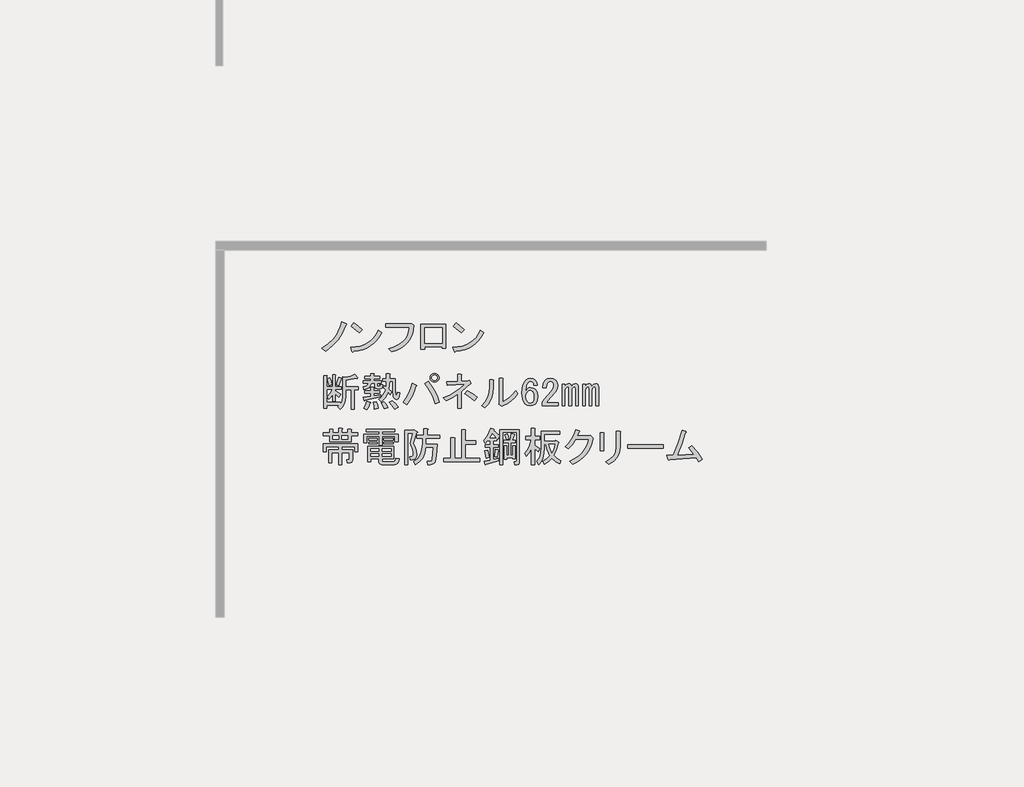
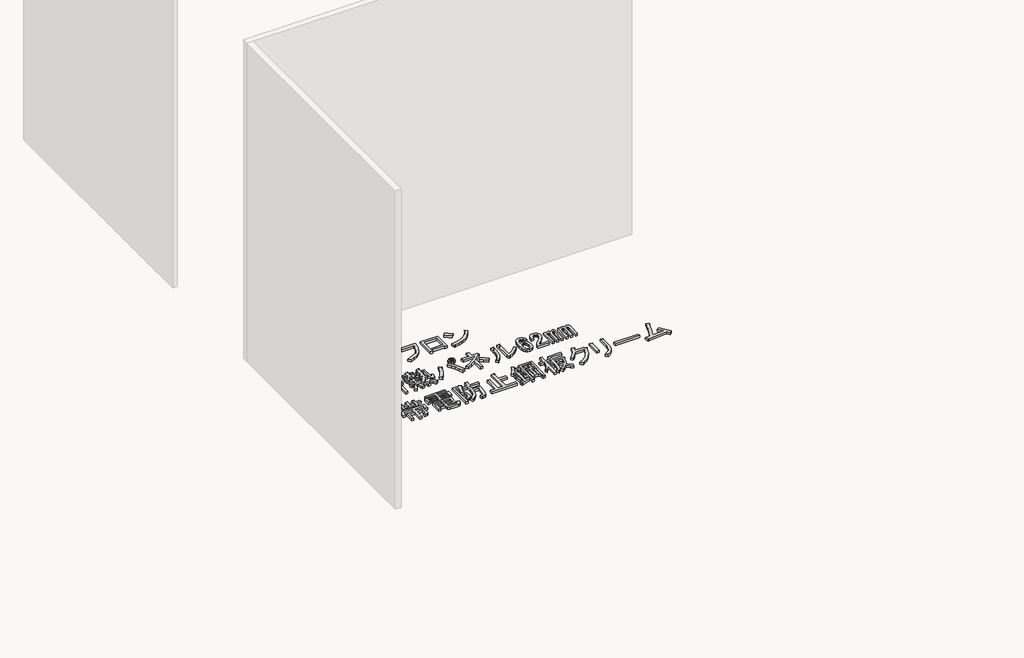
# One storey, part 67 of 117: 1 proxy.
"""IFC4 building model written with IfcOpenShell, lengths in millimetres."""

from ifc_helpers import new_model, si_unit, frame, origin, place, context, project, spatial, polyline, outline, extrude, element, save

model = new_model("IFC4")

# Units and contexts
model_context = context("Model", 3, world=origin())
ifc_project = project(units=[si_unit("LENGTHUNIT", "METRE", prefix="MILLI")], contexts=[model_context])

# Site, building, storey
site = spatial("IfcSite", under=ifc_project)
building = spatial("IfcBuilding", under=site)
storey = spatial("IfcBuildingStorey", under=building, Name="レベル 1", Elevation=500.0)

# Proxy
placement = place(None, origin())
element("IfcBuildingElementProxy", 1, Name="200㎜\u3000MS Pゴシック", ObjectType="200㎜\u3000MS Pゴシック", at=placement, inside=storey, context=model_context, shape_type="SweptSolid", body=[
    extrude(outline(polyline([(-15056.3293015, 3392.9503118), (-15081.9047498, 3333.1784775), (-15110.353844, 3287.2001434), (-15152.0217093, 3241.7965385), (-15201.1610538, 3204.439142), (-15228.7480543, 3226.2788507), (-15181.0455327, 3256.7394971), (-15141.3892195, 3295.2463519), (-15124.0036619, 3319.1694538), (-15108.6296565, 3347.2593423), (-15095.2672031, 3379.5160173), (-15083.9163019, 3415.9394788), (-15052.8809264, 3402.1459786), (-15049.7199159, 3397.5481452), (-15056.3293015, 3392.9503118)])), frame((0.0, 0.0, 500.0), z_axis=(0.0, 0.0, 1.0), x_axis=(1.0, 0.0, 0.0)), (0.0, 0.0, 1.0), 25.0),
    extrude(outline(polyline([(-14956.6022948, 3337.7763109), (-15015.2246708, 3384.9041033), (-14995.6838788, 3409.0427287), (-14968.3842429, 3389.2145721), (-14934.7625862, 3359.6160196), (-14956.6022948, 3337.7763109)])), frame((0.0, 0.0, 500.0), z_axis=(0.0, 0.0, 1.0), x_axis=(1.0, 0.0, 0.0)), (0.0, 0.0, 1.0), 25.0),
    extrude(outline(polyline([(-14794.5286672, 3337.7763109), (-14811.052131, 3308.034076), (-14830.1618761, 3282.0275808), (-14851.8579025, 3259.7568252), (-14876.1402102, 3241.2218093), (-14903.0087992, 3226.422533), (-14932.4636694, 3215.3589964), (-14964.504821, 3208.0311994), (-14999.1322539, 3204.439142), (-15004.8795456, 3196.3929336), (-15010.6268374, 3202.1402253), (-15019.8225042, 3232.0261425), (-14983.9917321, 3234.7022252), (-14951.2142088, 3241.0062859), (-14921.4899342, 3250.9383244), (-14894.8189084, 3264.4983409), (-14871.2011313, 3281.6863354), (-14850.636603, 3302.5023077), (-14833.1253234, 3326.946258), (-14818.6672926, 3355.0181862), (-14794.5286672, 3337.7763109)])), frame((0.0, 0.0, 500.0), z_axis=(0.0, 0.0, 1.0), x_axis=(1.0, 0.0, 0.0)), (0.0, 0.0, 1.0), 25.0),
    extrude(outline(polyline([(-14743.7685864, 3222.8304757), (-14709.985287, 3232.5110702), (-14680.4765359, 3244.8857078), (-14655.242333, 3259.9543884), (-14634.2826783, 3277.717112), (-14617.597572, 3298.1738786), (-14605.1870138, 3321.3246882), (-14597.0510039, 3347.1695409), (-14593.1895423, 3375.7084365), (-14765.6082951, 3375.7084365), (-14765.6082951, 3400.9965202), (-14590.8906256, 3400.9965202), (-14574.7982086, 3404.4448953), (-14562.1541668, 3392.9503118), (-14565.674383, 3356.4550091), (-14573.9361149, 3323.4080815), (-14586.9393625, 3293.8095289), (-14604.6841258, 3267.6593514), (-14627.1704048, 3244.957549), (-14654.3981995, 3225.7041216), (-14686.3675099, 3209.8990692), (-14723.078336, 3197.5423919), (-14743.7685864, 3222.8304757)])), frame((0.0, 0.0, 500.0), z_axis=(0.0, 0.0, 1.0), x_axis=(1.0, 0.0, 0.0)), (0.0, 0.0, 1.0), 25.0),
    extrude(outline(polyline([(-14329.044013, 3223.979934), (-14355.4815551, 3223.979934), (-14355.4815551, 3236.6239759), (-14483.0714321, 3236.6239759), (-14483.0714321, 3218.2326423), (-14509.5089742, 3218.2326423), (-14509.5089742, 3397.5481452), (-14329.044013, 3397.5481452), (-14329.044013, 3223.979934)]), holes=[polyline([(-14483.0714321, 3372.2600614), (-14483.0714321, 3261.9120596), (-14355.4815551, 3261.9120596), (-14355.4815551, 3372.2600614), (-14483.0714321, 3372.2600614)])]), frame((0.0, 0.0, 500.0), z_axis=(0.0, 0.0, 1.0), x_axis=(1.0, 0.0, 0.0)), (0.0, 0.0, 1.0), 25.0),
    extrude(outline(polyline([(-14052.9900951, 3337.7763109), (-14069.5135589, 3308.034076), (-14088.623304, 3282.0275808), (-14110.3193304, 3259.7568252), (-14134.6016381, 3241.2218093), (-14161.4702271, 3226.422533), (-14190.9250974, 3215.3589964), (-14222.9662489, 3208.0311994), (-14257.5936818, 3204.439142), (-14263.3409736, 3196.3929336), (-14269.0882653, 3202.1402253), (-14278.2839321, 3232.0261425), (-14242.4531601, 3234.7022252), (-14209.6756367, 3241.0062859), (-14179.9513622, 3250.9383244), (-14153.2803363, 3264.4983409), (-14129.6625593, 3281.6863354), (-14109.0980309, 3302.5023077), (-14091.5867514, 3326.946258), (-14077.1287205, 3355.0181862), (-14052.9900951, 3337.7763109)])), frame((0.0, 0.0, 500.0), z_axis=(0.0, 0.0, 1.0), x_axis=(1.0, 0.0, 0.0)), (0.0, 0.0, 1.0), 25.0),
    extrude(outline(polyline([(-14215.0637228, 3337.7763109), (-14273.6860987, 3384.9041033), (-14254.1453067, 3409.0427287), (-14226.8456709, 3389.2145721), (-14193.2240141, 3359.6160196), (-14215.0637228, 3337.7763109)])), frame((0.0, 0.0, 500.0), z_axis=(0.0, 0.0, 1.0), x_axis=(1.0, 0.0, 0.0)), (0.0, 0.0, 1.0), 25.0),
    extrude(outline(polyline([(-15122.9978859, 2960.7654779), (-15105.7560106, 3013.6405621), (-15085.0657603, 3007.8932704), (-15083.3415727, 3004.7322599), (-15087.364677, 3002.1459786), (-15104.6065523, 2953.8687278), (-15122.9978859, 2960.7654779)])), frame((0.0, 0.0, 500.0), z_axis=(0.0, 0.0, 1.0), x_axis=(1.0, 0.0, 0.0)), (0.0, 0.0, 1.0), 25.0),
    extrude(outline(polyline([(-14968.9704667, 3009.0427287), (-14970.6946542, 3004.4448953), (-14978.1661335, 3006.743812), (-15055.1798431, 2994.0997701), (-15055.1798431, 2944.673061), (-14963.2231749, 2944.673061), (-14963.2231749, 2922.8333523), (-14994.2585505, 2922.8333523), (-14994.2585505, 2782.5994334), (-15017.2477175, 2782.5994334), (-15017.2477175, 2922.8333523), (-15055.1798431, 2922.8333523), (-15055.1798431, 2873.4066432), (-15057.7661244, 2845.6041193), (-15065.5249683, 2820.8189236), (-15078.4563747, 2799.051056), (-15096.5603438, 2780.3005167), (-15113.8022191, 2799.8413086), (-15103.4570939, 2809.0369755), (-15193.1148454, 2809.0369755), (-15193.1148454, 2787.1972668), (-15216.1040124, 2787.1972668), (-15216.1040124, 3026.284604), (-15194.2643037, 3026.284604), (-15189.3791057, 3023.9856873), (-15193.1148454, 3019.3878539), (-15193.1148454, 2943.5236026), (-15150.5848863, 2943.5236026), (-15150.5848863, 3030.8824374), (-15132.1935527, 3030.8824374), (-15127.3083547, 3028.5835207), (-15131.0440943, 3023.9856873), (-15131.0440943, 2943.5236026), (-15087.364677, 2943.5236026), (-15087.364677, 2925.132269), (-15131.0440943, 2925.132269), (-15131.0440943, 2915.9366022), (-15090.813052, 2889.4990601), (-15104.6065523, 2867.6593514), (-15131.0440943, 2894.0968935), (-15131.0440943, 2841.2218093), (-15150.5848863, 2841.2218093), (-15150.5848863, 2889.4990601), (-15163.8036574, 2869.6709035), (-15178.1718868, 2853.8658512), (-15190.8159287, 2872.2571848), (-15168.97622, 2896.3958102), (-15151.7343447, 2925.132269), (-15193.1148454, 2925.132269), (-15193.1148454, 2830.8766841), (-15095.4108854, 2830.8766841), (-15095.4108854, 2817.0831839), (-15082.479479, 2841.2218093), (-15078.1690102, 2874.5561015), (-15078.1690102, 3019.3878539), (-15056.3293015, 3013.6405621), (-15020.1213634, 3021.1120414), (-14989.660717, 3034.3308125), (-14968.9704667, 3009.0427287)])), frame((0.0, 0.0, 500.0), z_axis=(0.0, 0.0, 1.0), x_axis=(1.0, 0.0, 0.0)), (0.0, 0.0, 1.0), 25.0),
    extrude(outline(polyline([(-15177.0224284, 2952.7192695), (-15189.6664703, 3003.2954369), (-15170.1256783, 3010.1921871), (-15162.3668344, 2986.0535617), (-15157.4816364, 2959.6160196), (-15177.0224284, 2952.7192695)])), frame((0.0, 0.0, 500.0), z_axis=(0.0, 0.0, 1.0), x_axis=(1.0, 0.0, 0.0)), (0.0, 0.0, 1.0), 25.0),
    extrude(outline(polyline([(-14878.1632569, 2832.0261425), (-14874.7148818, 2827.1409445), (-14880.4621736, 2823.979934), (-14890.2325696, 2798.4044857), (-14901.1524239, 2779.1510583), (-14924.141591, 2790.6456418), (-14911.4975491, 2814.209538), (-14901.1524239, 2841.2218093), (-14878.1632569, 2832.0261425)])), frame((0.0, 0.0, 500.0), z_axis=(0.0, 0.0, 1.0), x_axis=(1.0, 0.0, 0.0)), (0.0, 0.0, 1.0), 25.0),
    extrude(outline(polyline([(-14833.3343812, 2836.6239759), (-14823.2766206, 2809.32434), (-14818.3914226, 2787.1972668), (-14847.1278814, 2781.449975), (-14849.7141627, 2803.0023191), (-14857.4730066, 2833.1756008), (-14833.3343812, 2836.6239759)])), frame((0.0, 0.0, 500.0), z_axis=(0.0, 0.0, 1.0), x_axis=(1.0, 0.0, 0.0)), (0.0, 0.0, 1.0), 25.0),
    extrude(outline(polyline([(-14718.388546, 2842.3712677), (-14693.6751914, 2821.1062881), (-14674.7091286, 2796.3929336), (-14701.1466707, 2781.449975), (-14720.4000981, 2811.0485276), (-14739.0787963, 2830.8766841), (-14718.388546, 2842.3712677)])), frame((0.0, 0.0, 500.0), z_axis=(0.0, 0.0, 1.0), x_axis=(1.0, 0.0, 0.0)), (0.0, 0.0, 1.0), 25.0),
    extrude(outline(polyline([(-14777.0109219, 2783.7488917), (-14785.344495, 2808.4622463), (-14798.8506306, 2829.7272258), (-14778.1603803, 2837.7734343), (-14761.2058696, 2816.2210902), (-14749.4239215, 2792.9445585), (-14777.0109219, 2783.7488917)])), frame((0.0, 0.0, 500.0), z_axis=(0.0, 0.0, 1.0), x_axis=(1.0, 0.0, 0.0)), (0.0, 0.0, 1.0), 25.0),
    extrude(outline(polyline([(-14916.0953825, 2846.9691011), (-14918.1069346, 2842.0839031), (-14921.8426743, 2843.520726), (-14927.589966, 2867.6593514), (-14872.4159651, 2875.7055599), (-14872.4159651, 2898.6947269), (-14916.0953825, 2898.6947269), (-14916.0953825, 2917.0860605), (-14872.4159651, 2917.0860605), (-14872.4159651, 2940.0752276), (-14854.0246315, 2940.0752276), (-14849.1394335, 2937.7763109), (-14852.8751732, 2933.1784775), (-14852.8751732, 2917.0860605), (-14808.0462974, 2917.0860605), (-14808.0462974, 2898.6947269), (-14852.8751732, 2898.6947269), (-14852.8751732, 2879.1539349), (-14802.2990057, 2888.3496017), (-14802.2990057, 2872.2571848), (-14916.0953825, 2846.9691011)])), frame((0.0, 0.0, 500.0), z_axis=(0.0, 0.0, 1.0), x_axis=(1.0, 0.0, 0.0)), (0.0, 0.0, 1.0), 25.0),
    extrude(outline(polyline([(-14845.978423, 2968.8116864), (-14871.2665068, 2968.8116864), (-14875.8643402, 2951.3542877), (-14886.2094654, 2938.0636755), (-14902.3018823, 2928.9398498), (-14924.141591, 2923.9828107), (-14928.7394244, 2943.5236026), (-14903.4513406, 2952.1445403), (-14895.9798614, 2959.4723373), (-14891.9567571, 2968.8116864), (-14927.589966, 2968.8116864), (-14927.589966, 2987.20302), (-14873.5654235, 2987.20302), (-14873.5654235, 3004.4448953), (-14917.2448409, 3004.4448953), (-14917.2448409, 3022.8362289), (-14873.5654235, 3022.8362289), (-14873.5654235, 3041.2275626), (-14851.7257148, 3041.2275626), (-14846.8405168, 3038.9286459), (-14850.5762564, 3034.3308125), (-14850.5762564, 3022.8362289), (-14808.0462974, 3022.8362289), (-14808.0462974, 3004.4448953), (-14850.5762564, 3004.4448953), (-14850.5762564, 2987.20302), (-14797.7011723, 2987.20302), (-14797.7011723, 2968.8116864), (-14826.4376311, 2968.8116864), (-14826.4376311, 2956.1676445), (-14825.0008081, 2950.9950819), (-14820.6903393, 2949.2708944), (-14810.3452141, 2949.2708944), (-14806.6094745, 2952.4319049), (-14806.8968391, 2961.9149363), (-14787.3560471, 2959.6160196), (-14790.229693, 2938.0636755), (-14795.5459378, 2932.6755894), (-14803.448464, 2930.8795608), (-14827.5870894, 2930.8795608), (-14841.3805896, 2935.7647588), (-14845.978423, 2950.4203528), (-14845.978423, 2968.8116864)])), frame((0.0, 0.0, 500.0), z_axis=(0.0, 0.0, 1.0), x_axis=(1.0, 0.0, 0.0)), (0.0, 0.0, 1.0), 25.0),
    extrude(outline(polyline([(-14714.9401709, 2986.0535617), (-14736.7798796, 2986.0535617), (-14741.377713, 2928.5806441), (-14721.836921, 2910.1893104), (-14732.1820462, 2888.3496017), (-14748.2744631, 2904.4420187), (-14767.5278905, 2866.7972576), (-14797.7011723, 2834.3250592), (-14814.9430475, 2855.0153095), (-14799.8564067, 2866.9409399), (-14786.7813179, 2882.0275808), (-14775.7177813, 2900.2752321), (-14766.6657967, 2921.683894), (-14783.907672, 2936.6268525), (-14775.8614636, 2953.8687278), (-14762.0679633, 2943.5236026), (-14759.7690466, 2986.0535617), (-14787.3560471, 2986.0535617), (-14787.3560471, 3004.4448953), (-14759.7690466, 3004.4448953), (-14759.7690466, 3038.9286459), (-14737.9293379, 3038.9286459), (-14733.04414, 3036.6297292), (-14736.7798796, 3032.0318957), (-14736.7798796, 3004.4448953), (-14695.3993789, 3004.4448953), (-14695.3993789, 2907.8903937), (-14691.9510039, 2883.7517683), (-14688.7181523, 2881.7402162), (-14685.9163475, 2884.9012267), (-14681.6058787, 2906.7409354), (-14662.0650867, 2899.8441853), (-14666.591079, 2873.0474374), (-14674.421764, 2857.0268616), (-14685.5571418, 2851.7824579), (-14699.9972123, 2857.3142262), (-14706.5347567, 2864.6420232), (-14711.2044313, 2876.280289), (-14714.9401709, 2912.4882271), (-14714.9401709, 2986.0535617)])), frame((0.0, 0.0, 500.0), z_axis=(0.0, 0.0, 1.0), x_axis=(1.0, 0.0, 0.0)), (0.0, 0.0, 1.0), 25.0),
    extrude(outline(polyline([(-14456.3120417, 2983.754645), (-14429.6589762, 2947.0438188), (-14407.1726971, 2909.3272167), (-14388.8532047, 2870.6048384), (-14374.7004987, 2830.8766841), (-14405.7358742, 2820.531559), (-14421.1817208, 2863.6362472), (-14438.7828018, 2902.143102), (-14458.5391173, 2936.0521234), (-14480.4506671, 2965.3633113), (-14456.3120417, 2983.754645)])), frame((0.0, 0.0, 500.0), z_axis=(0.0, 0.0, 1.0), x_axis=(1.0, 0.0, 0.0)), (0.0, 0.0, 1.0), 25.0),
    extrude(outline(polyline([(-14543.6708765, 2957.3171029), (-14539.6477722, 2951.8571757), (-14545.9697932, 2946.9719777), (-14557.8954236, 2911.5542922), (-14572.9820644, 2877.717112), (-14591.2297158, 2845.460437), (-14612.6383776, 2814.7842672), (-14639.0759197, 2832.0261425), (-14615.8712292, 2863.4925649), (-14596.8333252, 2896.9705394), (-14581.9622078, 2932.460066), (-14571.2578769, 2969.9611447), (-14543.6708765, 2957.3171029)])), frame((0.0, 0.0, 500.0), z_axis=(0.0, 0.0, 1.0), x_axis=(1.0, 0.0, 0.0)), (0.0, 0.0, 1.0), 25.0),
    extrude(outline(polyline([(-14410.3337076, 2978.0073532), (-14422.9777495, 2980.3062699), (-14433.3228747, 2987.20302), (-14440.2196248, 2997.5481452), (-14442.5185415, 3010.1921871), (-14440.2196248, 3022.8362289), (-14433.3228747, 3033.1813541), (-14422.9777495, 3040.0781042), (-14410.3337076, 3042.3770209), (-14397.6896657, 3040.0781042), (-14387.3445406, 3033.1813541), (-14380.4477905, 3022.8362289), (-14378.1488738, 3010.1921871), (-14380.4477905, 2997.5481452), (-14387.3445406, 2987.20302), (-14397.6896657, 2980.3062699), (-14410.3337076, 2978.0073532)]), holes=[polyline([(-14410.3337076, 2989.5019367), (-14402.0001346, 2990.9387597), (-14395.390749, 2995.2492285), (-14391.0802802, 3001.858614), (-14389.6434573, 3010.1921871), (-14391.0802802, 3018.5257601), (-14395.390749, 3025.1351456), (-14402.0001346, 3029.4456145), (-14410.3337076, 3030.8824374), (-14418.6672807, 3029.4456145), (-14425.2766662, 3025.1351456), (-14429.587135, 3018.5257601), (-14431.023958, 3010.1921871), (-14429.587135, 3001.858614), (-14425.2766662, 2995.2492285), (-14418.6672807, 2990.9387597), (-14410.3337076, 2989.5019367)])]), frame((0.0, 0.0, 500.0), z_axis=(0.0, 0.0, 1.0), x_axis=(1.0, 0.0, 0.0)), (0.0, 0.0, 1.0), 25.0),
    extrude(outline(polyline([(-14120.6702029, 2844.6701844), (-14157.7402348, 2873.9813723), (-14190.7871624, 2895.2463519), (-14173.5452871, 2917.0860605), (-14134.7510677, 2893.8095289), (-14101.1294109, 2867.6593514), (-14120.6702029, 2844.6701844)])), frame((0.0, 0.0, 500.0), z_axis=(0.0, 0.0, 1.0), x_axis=(1.0, 0.0, 0.0)), (0.0, 0.0, 1.0), 25.0),
    extrude(outline(polyline([(-14166.648537, 2988.3524784), (-14159.7517869, 2990.6513951), (-14147.107745, 2973.4095198), (-14145.9582866, 2967.3748634), (-14151.7055784, 2965.3633113), (-14214.9257878, 2909.0398521), (-14214.9257878, 2788.3467251), (-14241.3633299, 2788.3467251), (-14241.3633299, 2890.6485184), (-14281.5943722, 2866.5098931), (-14326.4232479, 2844.6701844), (-14345.9640399, 2865.3604347), (-14300.4167527, 2884.8293855), (-14259.1799343, 2907.6030291), (-14222.2535848, 2933.6813655), (-14189.637704, 2963.0643946), (-14319.5264978, 2957.3171029), (-14322.9748729, 2982.6051866), (-14241.3633299, 2984.9041033), (-14241.3633299, 3036.6297292), (-14218.3741628, 3036.6297292), (-14212.3395065, 3033.1813541), (-14214.9257878, 3027.4340623), (-14214.9257878, 2986.0535617), (-14166.648537, 2988.3524784)])), frame((0.0, 0.0, 500.0), z_axis=(0.0, 0.0, 1.0), x_axis=(1.0, 0.0, 0.0)), (0.0, 0.0, 1.0), 25.0),
    extrude(outline(polyline([(-14067.703162, 2806.7380587), (-14042.5587606, 2835.9774056), (-14024.5984738, 2868.5214452), (-14013.8223018, 2904.3701775), (-14010.2302444, 2943.5236026), (-14010.2302444, 2995.2492285), (-13986.091619, 2995.2492285), (-13980.3443273, 2991.8008534), (-13983.7927023, 2986.0535617), (-13983.7927023, 2944.673061), (-13987.6002831, 2898.9102504), (-13999.0230255, 2858.17632), (-14018.0609295, 2822.4712699), (-14044.713995, 2791.7951002), (-14067.703162, 2806.7380587)])), frame((0.0, 0.0, 500.0), z_axis=(0.0, 0.0, 1.0), x_axis=(1.0, 0.0, 0.0)), (0.0, 0.0, 1.0), 25.0),
    extrude(outline(polyline([(-13913.6757429, 2837.7734343), (-13888.8905471, 2849.9864292), (-13865.1111275, 2867.0846222), (-13842.3374839, 2889.0680132), (-13820.5696163, 2915.9366022), (-13804.4771994, 2894.0968935), (-13827.753731, 2866.2943696), (-13853.9039086, 2842.6586322), (-13882.9277319, 2823.1896814), (-13914.8252012, 2807.8875171), (-13924.020868, 2803.2896837), (-13942.4122017, 2817.0831839), (-13940.113285, 2822.8304757), (-13940.113285, 3007.8932704), (-13915.9746596, 3007.8932704), (-13910.2273678, 3004.4448953), (-13913.6757429, 2998.6976035), (-13913.6757429, 2837.7734343)])), frame((0.0, 0.0, 500.0), z_axis=(0.0, 0.0, 1.0), x_axis=(1.0, 0.0, 0.0)), (0.0, 0.0, 1.0), 25.0),
    extrude(outline(polyline([(-13775.7407406, 2902.143102), (-13774.0165531, 2931.5261311), (-13768.8439905, 2956.4550091), (-13760.2230529, 2976.929736), (-13748.1537402, 2992.9503118), (-13732.6360524, 3003.2954369), (-13713.6699896, 3006.743812), (-13693.841833, 3003.2954369), (-13678.0367807, 2992.9503118), (-13666.8295618, 2975.9958011), (-13663.0938221, 2955.0181862), (-13689.5313642, 2955.0181862), (-13691.2555517, 2968.8116864), (-13696.4281143, 2978.0073532), (-13704.1869582, 2983.1799158), (-13713.6699896, 2984.9041033), (-13723.153021, 2983.1799158), (-13730.9118649, 2978.0073532), (-13738.9580734, 2967.0874989), (-13744.7053651, 2952.7192695), (-13749.3031985, 2913.6376855), (-13737.808615, 2928.5806441), (-13726.3140315, 2936.3394879), (-13712.5205313, 2938.9257692), (-13693.5544684, 2935.4773942), (-13678.0367807, 2925.132269), (-13665.1053742, 2903.5799249), (-13660.7949054, 2873.4066432), (-13665.3927388, 2842.0839031), (-13679.186239, 2819.3821006), (-13695.5660206, 2809.0369755), (-13717.1183647, 2805.5886004), (-13736.9465212, 2809.8990692), (-13755.0504903, 2822.8304757), (-13764.1024748, 2835.5463587), (-13770.568178, 2853.0037574), (-13775.7407406, 2902.143102)]), holes=[polyline([(-13714.819448, 2918.2355189), (-13725.4519377, 2916.2239668), (-13734.3602399, 2910.1893104), (-13743.8432714, 2895.2463519), (-13747.0042818, 2875.7055599), (-13743.5559068, 2851.5669345), (-13733.2107816, 2834.3250592), (-13724.8772085, 2828.2904028), (-13715.9689063, 2826.2788507), (-13706.4858749, 2828.0030383), (-13698.727031, 2833.1756008), (-13690.9681872, 2848.405924), (-13688.3819059, 2873.4066432), (-13690.9681872, 2895.821081), (-13698.727031, 2910.1893104), (-13706.7732395, 2916.2239668), (-13714.819448, 2918.2355189)])]), frame((0.0, 0.0, 500.0), z_axis=(0.0, 0.0, 1.0), x_axis=(1.0, 0.0, 0.0)), (0.0, 0.0, 1.0), 25.0),
    extrude(outline(polyline([(-13625.1616965, 2937.7763109), (-13620.5638631, 2969.099051), (-13606.7703629, 2991.8008534), (-13590.3905814, 3003.0080724), (-13571.137154, 3006.743812), (-13548.4353515, 3003.0080724), (-13530.9061116, 2991.8008534), (-13519.6988927, 2975.1337073), (-13515.9631531, 2955.0181862), (-13520.2736219, 2929.1553732), (-13533.2050283, 2906.7409354), (-13566.5393205, 2868.8088098), (-13584.9306542, 2848.1185594), (-13598.7241544, 2829.7272258), (-13512.514778, 2829.7272258), (-13512.514778, 2807.8875171), (-13629.7595299, 2807.8875171), (-13629.7595299, 2827.4283091), (-13623.7248736, 2841.2218093), (-13610.2187379, 2859.6131429), (-13563.0909455, 2911.3387688), (-13548.4353515, 2932.6037483), (-13543.5501535, 2955.0181862), (-13545.8490702, 2967.662228), (-13552.7458203, 2978.0073532), (-13560.5046642, 2983.1799158), (-13569.9876956, 2984.9041033), (-13578.6086332, 2983.1799158), (-13586.0801125, 2978.0073532), (-13595.5631439, 2961.6275717), (-13598.7241544, 2937.7763109), (-13625.1616965, 2937.7763109)])), frame((0.0, 0.0, 500.0), z_axis=(0.0, 0.0, 1.0), x_axis=(1.0, 0.0, 0.0)), (0.0, 0.0, 1.0), 25.0),
    extrude(outline(polyline([(-13463.0880689, 2806.7380587), (-13482.6288608, 2806.7380587), (-13482.6288608, 2964.213853), (-13463.0880689, 2964.213853), (-13463.0880689, 2946.9719777), (-13451.0187562, 2962.4896654), (-13437.7999851, 2967.662228), (-13428.6043183, 2966.2254051), (-13421.7075682, 2961.9149363), (-13414.8108181, 2948.121436), (-13401.8794116, 2962.77703), (-13388.373276, 2967.662228), (-13380.0397029, 2966.2254051), (-13373.4303174, 2961.9149363), (-13368.2577548, 2953.2939986), (-13366.5335673, 2941.2246859), (-13366.5335673, 2806.7380587), (-13386.0743593, 2806.7380587), (-13386.0743593, 2930.8795608), (-13388.6606406, 2940.3625922), (-13396.4194844, 2943.5236026), (-13406.7646096, 2938.9257692), (-13412.799266, 2930.3048316), (-13414.8108181, 2920.5344356), (-13414.8108181, 2806.7380587), (-13434.3516101, 2806.7380587), (-13434.3516101, 2930.8795608), (-13436.9378914, 2940.3625922), (-13444.6967352, 2943.5236026), (-13455.0418604, 2938.9257692), (-13461.0765167, 2930.3048316), (-13463.0880689, 2920.5344356), (-13463.0880689, 2806.7380587)])), frame((0.0, 0.0, 500.0), z_axis=(0.0, 0.0, 1.0), x_axis=(1.0, 0.0, 0.0)), (0.0, 0.0, 1.0), 25.0),
    extrude(outline(polyline([(-13241.2426069, 2967.662228), (-13232.9090339, 2966.2254051), (-13226.2996483, 2961.9149363), (-13221.1270858, 2953.2939986), (-13219.4028982, 2941.2246859), (-13219.4028982, 2806.7380587), (-13238.9436902, 2806.7380587), (-13238.9436902, 2930.8795608), (-13241.5299715, 2940.3625922), (-13249.2888154, 2943.5236026), (-13259.6339406, 2938.9257692), (-13265.6685969, 2930.3048316), (-13267.680149, 2920.5344356), (-13267.680149, 2806.7380587), (-13287.220941, 2806.7380587), (-13287.220941, 2930.8795608), (-13289.8072223, 2940.3625922), (-13297.5660662, 2943.5236026), (-13307.9111913, 2938.9257692), (-13313.9458477, 2930.3048316), (-13315.9573998, 2920.5344356), (-13315.9573998, 2806.7380587), (-13335.4981918, 2806.7380587), (-13335.4981918, 2964.213853), (-13315.9573998, 2964.213853), (-13315.9573998, 2946.9719777), (-13303.8880871, 2962.4896654), (-13290.6693161, 2967.662228), (-13281.4736492, 2966.2254051), (-13274.5768991, 2961.9149363), (-13267.680149, 2948.121436), (-13254.7487426, 2962.77703), (-13241.2426069, 2967.662228)])), frame((0.0, 0.0, 500.0), z_axis=(0.0, 0.0, 1.0), x_axis=(1.0, 0.0, 0.0)), (0.0, 0.0, 1.0), 25.0),
    extrude(outline(polyline([(-15172.424595, 2546.9719777), (-15172.424595, 2567.662228), (-15172.424595, 2588.3524784), (-15218.4029291, 2588.3524784), (-15218.4029291, 2610.1921871), (-15172.424595, 2610.1921871), (-15172.424595, 2635.4802708), (-15150.5848863, 2635.4802708), (-15145.6996883, 2633.1813541), (-15149.435428, 2628.5835207), (-15149.435428, 2610.1921871), (-15105.7560106, 2610.1921871), (-15105.7560106, 2642.3770209), (-15083.9163019, 2642.3770209), (-15079.0311039, 2640.0781042), (-15082.7668436, 2635.4802708), (-15082.7668436, 2610.1921871), (-15040.2368845, 2610.1921871), (-15040.2368845, 2635.4802708), (-15018.3971758, 2635.4802708), (-15013.5119779, 2633.1813541), (-15017.2477175, 2628.5835207), (-15017.2477175, 2610.1921871), (-14970.1199251, 2610.1921871), (-14970.1199251, 2588.3524784), (-15017.2477175, 2588.3524784), (-15017.2477175, 2546.9719777), (-15172.424595, 2546.9719777)]), holes=[polyline([(-15105.7560106, 2588.3524784), (-15149.435428, 2588.3524784), (-15149.435428, 2565.3633113), (-15105.7560106, 2565.3633113), (-15105.7560106, 2588.3524784)]), polyline([(-15040.2368845, 2588.3524784), (-15082.7668436, 2588.3524784), (-15082.7668436, 2565.3633113), (-15040.2368845, 2565.3633113), (-15040.2368845, 2588.3524784)])]), frame((0.0, 0.0, 500.0), z_axis=(0.0, 0.0, 1.0), x_axis=(1.0, 0.0, 0.0)), (0.0, 0.0, 1.0), 25.0),
    extrude(outline(polyline([(-14967.8210084, 2473.4066432), (-14990.8101754, 2473.4066432), (-14990.8101754, 2510.1893104), (-15082.7668436, 2510.1893104), (-15082.7668436, 2486.050685), (-15005.753134, 2486.050685), (-15005.753134, 2411.3358922), (-15010.3509674, 2397.5423919), (-15024.1444676, 2392.9445585), (-15045.9841763, 2392.9445585), (-15049.4325514, 2414.7842672), (-15033.3401344, 2414.7842672), (-15029.8917594, 2415.9337256), (-15028.742301, 2419.3821006), (-15028.742301, 2464.2109763), (-15082.7668436, 2464.2109763), (-15082.7668436, 2376.8521416), (-15105.7560106, 2376.8521416), (-15105.7560106, 2464.2109763), (-15157.4816364, 2464.2109763), (-15157.4816364, 2391.7951002), (-15180.4708035, 2391.7951002), (-15180.4708035, 2486.050685), (-15105.7560106, 2486.050685), (-15105.7560106, 2510.1893104), (-15197.7126788, 2510.1893104), (-15197.7126788, 2473.4066432), (-15220.7018458, 2473.4066432), (-15220.7018458, 2532.0290191), (-14967.8210084, 2532.0290191), (-14967.8210084, 2473.4066432)])), frame((0.0, 0.0, 500.0), z_axis=(0.0, 0.0, 1.0), x_axis=(1.0, 0.0, 0.0)), (0.0, 0.0, 1.0), 25.0),
    extrude(outline(polyline([(-14888.5083821, 2557.3171029), (-14888.5083821, 2571.1106031), (-14825.2881727, 2571.1106031), (-14825.2881727, 2557.3171029), (-14888.5083821, 2557.3171029)])), frame((0.0, 0.0, 500.0), z_axis=(0.0, 0.0, 1.0), x_axis=(1.0, 0.0, 0.0)), (0.0, 0.0, 1.0), 25.0),
    extrude(outline(polyline([(-14825.2881727, 2529.7301024), (-14888.5083821, 2529.7301024), (-14888.5083821, 2543.5236026), (-14825.2881727, 2543.5236026), (-14825.2881727, 2529.7301024)])), frame((0.0, 0.0, 500.0), z_axis=(0.0, 0.0, 1.0), x_axis=(1.0, 0.0, 0.0)), (0.0, 0.0, 1.0), 25.0),
    extrude(outline(polyline([(-14666.6629201, 2421.6810173), (-14669.4647249, 2403.0741603), (-14676.7206807, 2389.7835481), (-14688.4307877, 2381.8091807), (-14704.5950457, 2379.1510583), (-14794.2527972, 2379.1510583), (-14809.770485, 2384.0362563), (-14813.6499069, 2390.1427538), (-14814.9430475, 2398.6918503), (-14814.9430475, 2420.531559), (-14874.7148818, 2420.531559), (-14874.7148818, 2400.990767), (-14894.2556738, 2400.990767), (-14894.2556738, 2513.6376855), (-14706.8939624, 2513.6376855), (-14706.8939624, 2420.531559), (-14791.9538805, 2420.531559), (-14791.9538805, 2410.1864338), (-14789.9423284, 2403.2896837), (-14783.907672, 2400.990767), (-14708.0434208, 2400.990767), (-14701.4340353, 2402.5712722), (-14696.5488373, 2407.3127879), (-14691.9510039, 2426.2788507), (-14666.6629201, 2421.6810173)]), holes=[polyline([(-14874.7148818, 2438.9228926), (-14814.9430475, 2438.9228926), (-14814.9430475, 2458.4636846), (-14874.7148818, 2458.4636846), (-14874.7148818, 2438.9228926)]), polyline([(-14874.7148818, 2476.8550182), (-14814.9430475, 2476.8550182), (-14814.9430475, 2495.2463519), (-14874.7148818, 2495.2463519), (-14874.7148818, 2476.8550182)]), polyline([(-14791.9538805, 2438.9228926), (-14726.4347544, 2438.9228926), (-14726.4347544, 2458.4636846), (-14791.9538805, 2458.4636846), (-14791.9538805, 2438.9228926)]), polyline([(-14791.9538805, 2476.8550182), (-14726.4347544, 2476.8550182), (-14726.4347544, 2495.2463519), (-14791.9538805, 2495.2463519), (-14791.9538805, 2476.8550182)])]), frame((0.0, 0.0, 500.0), z_axis=(0.0, 0.0, 1.0), x_axis=(1.0, 0.0, 0.0)), (0.0, 0.0, 1.0), 25.0),
    extrude(outline(polyline([(-14778.1603803, 2529.7301024), (-14778.1603803, 2543.5236026), (-14711.4917959, 2543.5236026), (-14711.4917959, 2529.7301024), (-14778.1603803, 2529.7301024)])), frame((0.0, 0.0, 500.0), z_axis=(0.0, 0.0, 1.0), x_axis=(1.0, 0.0, 0.0)), (0.0, 0.0, 1.0), 25.0),
    extrude(outline(polyline([(-14778.1603803, 2557.3171029), (-14778.1603803, 2571.1106031), (-14711.4917959, 2571.1106031), (-14711.4917959, 2557.3171029), (-14778.1603803, 2557.3171029)])), frame((0.0, 0.0, 500.0), z_axis=(0.0, 0.0, 1.0), x_axis=(1.0, 0.0, 0.0)), (0.0, 0.0, 1.0), 25.0),
    extrude(outline(polyline([(-14698.847754, 2618.2383955), (-14790.8044221, 2618.2383955), (-14790.8044221, 2599.8470619), (-14675.8585869, 2599.8470619), (-14675.8585869, 2544.673061), (-14698.847754, 2544.673061), (-14698.847754, 2586.0535617), (-14790.8044221, 2586.0535617), (-14790.8044221, 2520.5344356), (-14813.7935892, 2520.5344356), (-14813.7935892, 2586.0535617), (-14902.3018823, 2586.0535617), (-14902.3018823, 2540.0752276), (-14925.2910493, 2540.0752276), (-14925.2910493, 2599.8470619), (-14813.7935892, 2599.8470619), (-14813.7935892, 2618.2383955), (-14905.7502573, 2618.2383955), (-14905.7502573, 2636.6297292), (-14698.847754, 2636.6297292), (-14698.847754, 2618.2383955)])), frame((0.0, 0.0, 500.0), z_axis=(0.0, 0.0, 1.0), x_axis=(1.0, 0.0, 0.0)), (0.0, 0.0, 1.0), 25.0),
    extrude(outline(polyline([(-14475.8528337, 2504.4420187), (-14483.0369484, 2461.2654893), (-14497.6925424, 2425.9914861), (-14519.8196156, 2398.6200091), (-14549.4181682, 2379.1510583), (-14560.9127517, 2402.1402253), (-14533.2539101, 2421.9683819), (-14513.4975947, 2450.4174761), (-14501.6438055, 2487.487508), (-14497.6925424, 2533.1784775), (-14497.6925424, 2571.1106031), (-14541.3719597, 2571.1106031), (-14541.3719597, 2592.9503118), (-14488.4968756, 2592.9503118), (-14488.4968756, 2641.2275626), (-14463.2087918, 2641.2275626), (-14457.1741355, 2637.7791875), (-14462.0593335, 2632.0318957), (-14462.0593335, 2592.9503118), (-14373.5510404, 2592.9503118), (-14373.5510404, 2571.1106031), (-14474.7033753, 2571.1106031), (-14474.7033753, 2526.2817274), (-14391.942374, 2526.2817274), (-14397.6896657, 2444.0954552), (-14405.7358742, 2399.8413086), (-14410.6210722, 2391.2922121), (-14418.3799161, 2385.1857146), (-14442.5185415, 2380.3005167), (-14460.9098751, 2380.3005167), (-14464.3582502, 2402.1402253), (-14447.1163749, 2402.1402253), (-14434.7596976, 2405.3012358), (-14427.5755829, 2414.7842672), (-14418.3799161, 2504.4420187), (-14475.8528337, 2504.4420187)])), frame((0.0, 0.0, 500.0), z_axis=(0.0, 0.0, 1.0), x_axis=(1.0, 0.0, 0.0)), (0.0, 0.0, 1.0), 25.0),
    extrude(outline(polyline([(-14542.5214181, 2479.1539349), (-14540.5817071, 2451.4950933), (-14545.1076994, 2431.7387779), (-14556.0993949, 2419.8849886), (-14573.5567936, 2415.9337256), (-14587.3502938, 2415.9337256), (-14591.9481272, 2437.7734343), (-14580.4535437, 2437.7734343), (-14572.1199707, 2439.9286687), (-14566.6600435, 2446.3943719), (-14564.0737622, 2457.1705439), (-14564.3611268, 2472.2571848), (-14571.2578769, 2499.2694561), (-14587.3502938, 2534.3279358), (-14568.9589602, 2605.5943537), (-14603.4427108, 2605.5943537), (-14603.4427108, 2376.8521416), (-14626.4318778, 2376.8521416), (-14626.4318778, 2627.4340623), (-14562.0622101, 2627.4340623), (-14559.7632934, 2632.0318957), (-14535.624668, 2619.3878539), (-14534.187845, 2615.6521142), (-14539.073043, 2613.6405621), (-14565.5105851, 2535.4773942), (-14549.9928974, 2503.0051957), (-14542.5214181, 2479.1539349)])), frame((0.0, 0.0, 500.0), z_axis=(0.0, 0.0, 1.0), x_axis=(1.0, 0.0, 0.0)), (0.0, 0.0, 1.0), 25.0),
    extrude(outline(polyline([(-14188.4882457, 2633.1813541), (-14182.4535893, 2629.732979), (-14187.3387873, 2623.9856873), (-14187.3387873, 2553.8687278), (-14111.4745361, 2553.8687278), (-14111.4745361, 2528.5806441), (-14187.3387873, 2528.5806441), (-14187.3387873, 2425.1293924), (-14081.5886189, 2425.1293924), (-14081.5886189, 2399.8413086), (-14344.8145815, 2399.8413086), (-14344.8145815, 2425.1293924), (-14291.9394974, 2425.1293924), (-14291.9394974, 2575.7084365), (-14266.6514136, 2575.7084365), (-14260.6167573, 2572.2600614), (-14265.5019553, 2566.5127697), (-14265.5019553, 2425.1293924), (-14213.7763294, 2425.1293924), (-14213.7763294, 2633.1813541), (-14188.4882457, 2633.1813541)])), frame((0.0, 0.0, 500.0), z_axis=(0.0, 0.0, 1.0), x_axis=(1.0, 0.0, 0.0)), (0.0, 0.0, 1.0), 25.0),
    extrude(outline(polyline([(-13950.5503668, 2565.3633113), (-13991.9308675, 2609.0427287), (-14013.7705762, 2569.9611447), (-13958.5965753, 2569.9611447), (-13958.5965753, 2551.5698111), (-13985.0341174, 2551.5698111), (-13985.0341174, 2522.8333523), (-13947.1019917, 2522.8333523), (-13947.1019917, 2504.4420187), (-13985.0341174, 2504.4420187), (-13985.0341174, 2417.0831839), (-13945.9525334, 2427.4283091), (-13943.6536167, 2407.8875171), (-14035.6102848, 2382.5994334), (-14037.9092016, 2376.8521416), (-14042.507035, 2380.3005167), (-14049.4037851, 2403.2896837), (-14004.5749093, 2412.4853505), (-14004.5749093, 2504.4420187), (-14042.507035, 2504.4420187), (-14042.507035, 2522.8333523), (-14004.5749093, 2522.8333523), (-14004.5749093, 2551.5698111), (-14026.414618, 2551.5698111), (-14041.3575766, 2533.1784775), (-14054.0016185, 2553.8687278), (-14025.8398889, 2591.5134888), (-14001.1265343, 2642.3770209), (-13979.2868256, 2636.6297292), (-13975.8384505, 2632.8939895), (-13981.5857423, 2630.8824374), (-13982.7352007, 2627.4340623), (-13937.9063249, 2589.5019367), (-13950.5503668, 2565.3633113)])), frame((0.0, 0.0, 500.0), z_axis=(0.0, 0.0, 1.0), x_axis=(1.0, 0.0, 0.0)), (0.0, 0.0, 1.0), 25.0),
    extrude(outline(polyline([(-13882.732324, 2602.1459786), (-13875.5482093, 2586.9156554), (-13870.0882822, 2566.5127697), (-13887.3301574, 2560.7654779), (-13898.824741, 2597.5481452), (-13882.732324, 2602.1459786)])), frame((0.0, 0.0, 500.0), z_axis=(0.0, 0.0, 1.0), x_axis=(1.0, 0.0, 0.0)), (0.0, 0.0, 1.0), 25.0),
    extrude(outline(polyline([(-13829.8572398, 2600.9965202), (-13827.2709585, 2597.5481452), (-13833.3056149, 2594.0997701), (-13845.9496568, 2556.1676445), (-13825.2594064, 2556.1676445), (-13825.2594064, 2537.7763109), (-13856.2947819, 2537.7763109), (-13856.2947819, 2449.2680178), (-13841.3518234, 2449.2680178), (-13841.3518234, 2517.0860605), (-13825.2594064, 2517.0860605), (-13825.2594064, 2422.8304757), (-13841.3518234, 2422.8304757), (-13841.3518234, 2430.8766841), (-13887.3301574, 2430.8766841), (-13887.3301574, 2418.2326423), (-13903.4225744, 2418.2326423), (-13903.4225744, 2514.7871438), (-13887.3301574, 2514.7871438), (-13887.3301574, 2449.2680178), (-13872.3871989, 2449.2680178), (-13872.3871989, 2537.7763109), (-13908.0204078, 2537.7763109), (-13908.0204078, 2556.1676445), (-13862.0420737, 2556.1676445), (-13851.6969485, 2605.5943537), (-13829.8572398, 2600.9965202)])), frame((0.0, 0.0, 500.0), z_axis=(0.0, 0.0, 1.0), x_axis=(1.0, 0.0, 0.0)), (0.0, 0.0, 1.0), 25.0),
    extrude(outline(polyline([(-13935.6074082, 2634.3308125), (-13795.3734893, 2634.3308125), (-13795.3734893, 2394.0940169), (-13799.1092289, 2382.8867979), (-13810.3164478, 2379.1510583), (-13826.4088648, 2379.1510583), (-13831.0066982, 2400.990767), (-13819.5121147, 2400.990767), (-13816.0637396, 2402.1402253), (-13814.9142813, 2405.5886004), (-13814.9142813, 2615.9394788), (-13916.0666162, 2615.9394788), (-13916.0666162, 2376.8521416), (-13935.6074082, 2376.8521416), (-13935.6074082, 2634.3308125)])), frame((0.0, 0.0, 500.0), z_axis=(0.0, 0.0, 1.0), x_axis=(1.0, 0.0, 0.0)), (0.0, 0.0, 1.0), 25.0),
    extrude(outline(polyline([(-13947.1019917, 2486.050685), (-13944.5157105, 2482.8896746), (-13948.2514501, 2480.3033933), (-13956.2976586, 2433.1756008), (-13974.6889922, 2435.4745175), (-13968.9417004, 2489.4990601), (-13947.1019917, 2486.050685)])), frame((0.0, 0.0, 500.0), z_axis=(0.0, 0.0, 1.0), x_axis=(1.0, 0.0, 0.0)), (0.0, 0.0, 1.0), 25.0),
    extrude(outline(polyline([(-14024.1157013, 2484.9012267), (-14012.6211178, 2433.1756008), (-14033.3113681, 2427.4283091), (-14044.8059517, 2479.1539349), (-14024.1157013, 2484.9012267)])), frame((0.0, 0.0, 500.0), z_axis=(0.0, 0.0, 1.0), x_axis=(1.0, 0.0, 0.0)), (0.0, 0.0, 1.0), 25.0),
    extrude(outline(polyline([(-13624.1041948, 2405.5886004), (-13595.367736, 2422.8304757), (-13573.5280273, 2444.6701844), (-13591.3446318, 2486.6254142), (-13601.1150278, 2527.4311857), (-13613.7590697, 2527.4311857), (-13613.7590697, 2503.2925603), (-13616.2016686, 2461.5528539), (-13623.5294656, 2427.1409445), (-13635.7424606, 2400.0568321), (-13652.8406536, 2380.3005167), (-13666.6341538, 2403.2896837), (-13653.5590651, 2420.6752413), (-13644.219716, 2442.9459968), (-13638.6161065, 2470.1019504), (-13636.7482367, 2502.143102), (-13636.7482367, 2622.8362289), (-13499.9626928, 2622.8362289), (-13499.9626928, 2600.9965202), (-13613.7590697, 2600.9965202), (-13613.7590697, 2549.2708944), (-13534.4464434, 2549.2708944), (-13528.6991516, 2555.0181862), (-13509.1583596, 2541.2246859), (-13507.7215367, 2537.4889463), (-13512.6067347, 2533.1784775), (-13524.963412, 2486.6254142), (-13543.6421102, 2445.8196427), (-13524.6760474, 2427.4283091), (-13493.0659427, 2409.0369755), (-13502.2616095, 2384.8983501), (-13530.1359745, 2400.990767), (-13558.5850688, 2426.2788507), (-13583.0110587, 2401.8528608), (-13614.908528, 2381.449975), (-13624.1041948, 2405.5886004)]), holes=[polyline([(-13579.2753191, 2527.4311857), (-13571.2291106, 2494.3842581), (-13558.5850688, 2466.5098931), (-13545.9410269, 2492.6600706), (-13537.8948184, 2527.4311857), (-13579.2753191, 2527.4311857)])]), frame((0.0, 0.0, 500.0), z_axis=(0.0, 0.0, 1.0), x_axis=(1.0, 0.0, 0.0)), (0.0, 0.0, 1.0), 25.0),
    extrude(outline(polyline([(-13706.8651962, 2376.8521416), (-13706.8651962, 2496.3958102), (-13724.6818006, 2462.1994242), (-13743.6478634, 2440.072351), (-13755.142447, 2460.7626013), (-13737.9005717, 2483.4644037), (-13724.1070714, 2507.8903937), (-13713.7619463, 2534.0405712), (-13706.8651962, 2561.9149363), (-13748.2456968, 2561.9149363), (-13748.2456968, 2583.754645), (-13706.8651962, 2583.754645), (-13706.8651962, 2643.5264793), (-13685.0254875, 2643.5264793), (-13680.1402895, 2641.2275626), (-13683.8760291, 2636.6297292), (-13683.8760291, 2583.754645), (-13645.9439035, 2583.754645), (-13645.9439035, 2561.9149363), (-13683.8760291, 2561.9149363), (-13683.8760291, 2521.683894), (-13645.9439035, 2495.2463519), (-13656.2890287, 2472.2571848), (-13683.8760291, 2495.2463519), (-13683.8760291, 2376.8521416), (-13706.8651962, 2376.8521416)])), frame((0.0, 0.0, 500.0), z_axis=(0.0, 0.0, 1.0), x_axis=(1.0, 0.0, 0.0)), (0.0, 0.0, 1.0), 25.0),
    extrude(outline(polyline([(-13263.1742723, 2561.9149363), (-13270.1967444, 2531.705734), (-13280.3443064, 2503.7236072), (-13293.6169583, 2477.968556), (-13310.0147001, 2454.4405804), (-13329.5375318, 2433.1396803), (-13352.1854534, 2414.0658557), (-13377.9584649, 2397.2191068), (-13406.8565663, 2382.5994334), (-13427.5468166, 2404.439142), (-13376.8269668, 2431.5950956), (-13355.669749, 2448.2981623), (-13337.314336, 2467.0846222), (-13321.7607277, 2487.9544754), (-13309.0089241, 2510.9077219), (-13299.0589252, 2535.9443616), (-13291.9107311, 2563.0643946), (-13383.8673992, 2563.0643946), (-13410.8796705, 2523.6954461), (-13439.0414001, 2492.9474352), (-13462.0305672, 2507.8903937), (-13434.8027725, 2536.0521234), (-13412.8912226, 2566.5127697), (-13396.2959177, 2599.2723327), (-13385.0168576, 2634.3308125), (-13358.5793155, 2625.1351456), (-13355.7056696, 2621.6867706), (-13360.8782322, 2618.2383955), (-13373.5222741, 2588.3524784), (-13290.7612727, 2588.3524784), (-13280.4161476, 2594.0997701), (-13259.7258972, 2573.4095198), (-13256.5648868, 2566.5127697), (-13263.1742723, 2561.9149363)])), frame((0.0, 0.0, 500.0), z_axis=(0.0, 0.0, 1.0), x_axis=(1.0, 0.0, 0.0)), (0.0, 0.0, 1.0), 25.0),
    extrude(outline(polyline([(-13063.3984107, 2505.591477), (-13068.427291, 2465.504117), (-13083.5139319, 2431.4514133), (-13108.6583333, 2403.433366), (-13143.8604953, 2381.449975), (-13166.8496624, 2400.990767), (-13133.5872113, 2420.531559), (-13109.6641094, 2444.6701844), (-13095.0803565, 2473.4066432), (-13089.8359528, 2506.7409354), (-13089.8359528, 2621.6867706), (-13065.6973274, 2621.6867706), (-13059.3753065, 2618.2383955), (-13063.3984107, 2612.4911038), (-13063.3984107, 2505.591477)])), frame((0.0, 0.0, 500.0), z_axis=(0.0, 0.0, 1.0), x_axis=(1.0, 0.0, 0.0)), (0.0, 0.0, 1.0), 25.0),
    extrude(outline(polyline([(-13181.792621, 2480.3033933), (-13208.230163, 2480.3033933), (-13208.230163, 2610.1921871), (-13182.9420793, 2610.1921871), (-13176.907423, 2607.3185412), (-13181.792621, 2600.9965202), (-13181.792621, 2480.3033933)])), frame((0.0, 0.0, 500.0), z_axis=(0.0, 0.0, 1.0), x_axis=(1.0, 0.0, 0.0)), (0.0, 0.0, 1.0), 25.0),
    extrude(outline(polyline([(-13007.0749514, 2498.6947269), (-13007.0749514, 2523.9828107), (-12750.7457389, 2523.9828107), (-12750.7457389, 2498.6947269), (-13007.0749514, 2498.6947269)])), frame((0.0, 0.0, 500.0), z_axis=(0.0, 0.0, 1.0), x_axis=(1.0, 0.0, 0.0)), (0.0, 0.0, 1.0), 25.0),
    extrude(outline(polyline([(-12723.4346085, 2445.8196427), (-12675.1573577, 2446.9691011), (-12638.662055, 2537.4889463), (-12611.9371483, 2629.732979), (-12585.4996062, 2620.5373122), (-12580.9017728, 2614.5026559), (-12587.798523, 2610.1921871), (-12613.3739713, 2529.1553732), (-12646.4208989, 2449.2680178), (-12526.8772303, 2455.0153095), (-12564.8093559, 2502.143102), (-12541.8201889, 2518.2355189), (-12503.6006987, 2471.9698202), (-12467.105396, 2418.2326423), (-12492.3934797, 2400.990767), (-12510.7848134, 2430.8766841), (-12703.8938165, 2415.9337256), (-12709.9284729, 2410.1864338), (-12714.2389417, 2415.9337256), (-12723.4346085, 2445.8196427)])), frame((0.0, 0.0, 500.0), z_axis=(0.0, 0.0, 1.0), x_axis=(1.0, 0.0, 0.0)), (0.0, 0.0, 1.0), 25.0),
])

save(model, "model.ifc")
